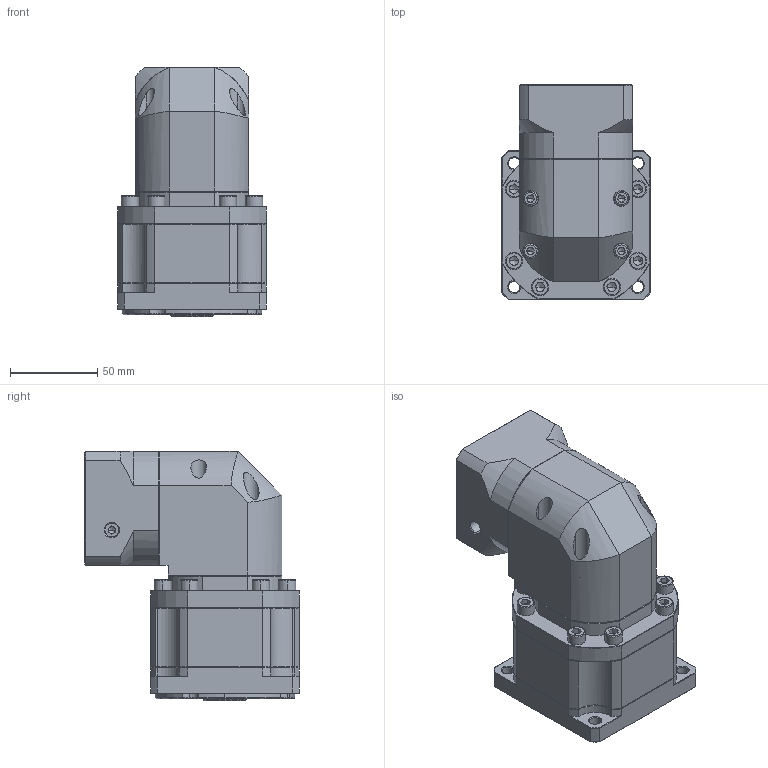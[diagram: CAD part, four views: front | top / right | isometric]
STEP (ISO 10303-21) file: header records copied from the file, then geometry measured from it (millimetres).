
FILE_DESCRIPTION (( 'STEP AP214' ), '1' );
FILE_NAME ('ZBR090-K15-L2-P2-14-60-75-M6.step', '2023-08-19T04:01:42', ( '' ), ( '' ), 'SwSTEP 2.0', 'SolidWorks 2016', '' );
FILE_SCHEMA (( 'AUTOMOTIVE_DESIGN' ));
Length unit declared in the file: millimetre
Products named in the file (1): ZBR090-K15-L2-P2-14-60-75-M6
Bounding box: 85 x 122.7 x 142.5 mm (x, y, z)
Volume: 796336.1 mm3; surface area: 99815.5 mm2
Topology: 5 solids, 5 shells, 2384 faces, 6349 edges, 4066 vertices
Faces by surface type: plane 1171, bspline 416, cylinder 414, cone 363, torus 20
Entity records: 123140 total; most frequent: CARTESIAN_POINT 40632, ORIENTED_EDGE 12610, DIRECTION 10226, EDGE_CURVE 6305, VERTEX_POINT 4066, LINE 3998, VECTOR 3998, AXIS2_PLACEMENT_3D 3114
